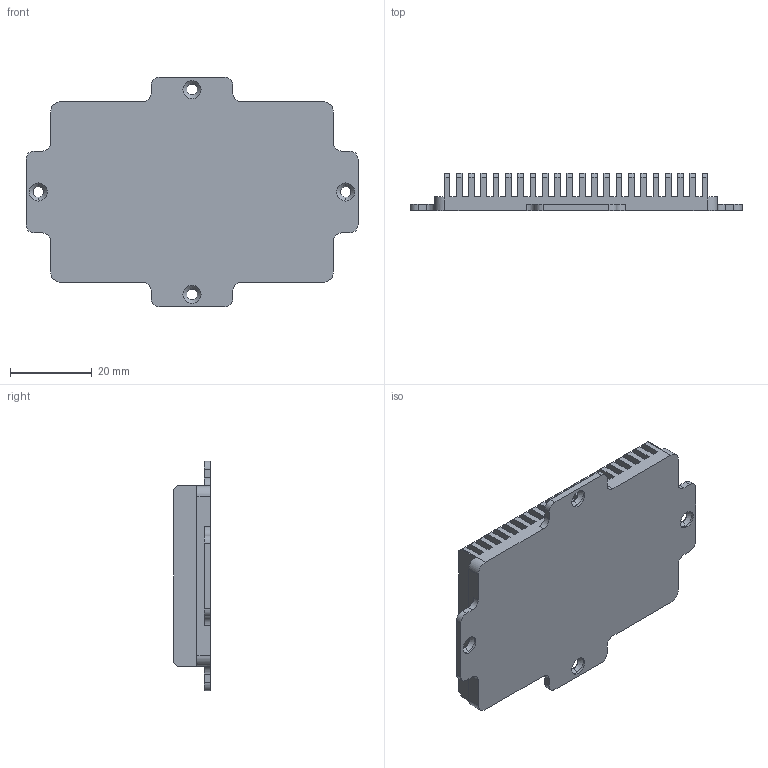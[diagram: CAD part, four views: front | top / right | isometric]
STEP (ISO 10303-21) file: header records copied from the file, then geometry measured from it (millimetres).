
FILE_DESCRIPTION (( 'STEP AP214' ), '1' );
FILE_NAME ('741542.174 冓儰僗闉.STEP', '2025-06-20T08:49:13', ( '' ), ( '' ), 'SwSTEP 2.0', 'SolidWorks 2019', '' );
FILE_SCHEMA (( 'AUTOMOTIVE_DESIGN' ));
Length unit declared in the file: millimetre
Products named in the file (1): 741542.174 冓儰僗闉
Bounding box: 81 x 9 x 56 mm (x, y, z)
Volume: 18347 mm3; surface area: 19115.2 mm2
Topology: 1 solids, 1 shells, 198 faces, 572 edges, 376 vertices
Faces by surface type: plane 154, cylinder 36, cone 8
Entity records: 6470 total; most frequent: CARTESIAN_POINT 1159, ORIENTED_EDGE 1144, DIRECTION 1038, EDGE_CURVE 572, VECTOR 496, LINE 496, VERTEX_POINT 376, AXIS2_PLACEMENT_3D 271
